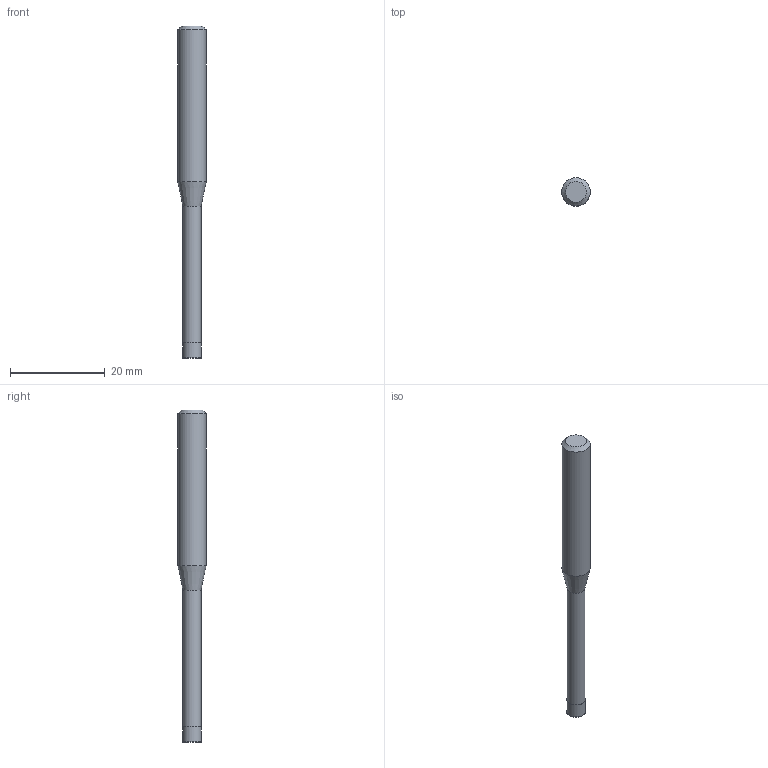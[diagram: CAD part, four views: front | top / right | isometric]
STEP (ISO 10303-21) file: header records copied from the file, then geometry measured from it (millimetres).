
FILE_DESCRIPTION((''),'2;1');
FILE_NAME('C:\Users\nsx150\AppData\Local\Temp\Mastercam 2021\3SYKECWX22\TEMP.step','2021-04-22T09:51:20',(''),(''),'STEP Write','Mastercam 2021 ... CNC Software, Inc.','');
FILE_SCHEMA(('AUTOMOTIVE_DESIGN'));
Length unit declared in the file: millimetre
Products named in the file (1): None
Bounding box: 6 x 6 x 70 mm (x, y, z)
Volume: 1388.6 mm3; surface area: 1138.7 mm2
Topology: 2 solids, 2 shells, 10 faces, 14 edges, 8 vertices
Faces by surface type: plane 4, cylinder 3, cone 2, torus 1
Full cylindrical faces by diameter (mm): 3.8 x1, 4 x1, 6 x1
Entity records: 232 total; most frequent: DIRECTION 40, CARTESIAN_POINT 28, AXIS2_PLACEMENT_3D 20, ORIENTED_EDGE 16, EDGE_LOOP 16, STYLED_ITEM 13, ADVANCED_FACE 10, FACE_BOUND 10
